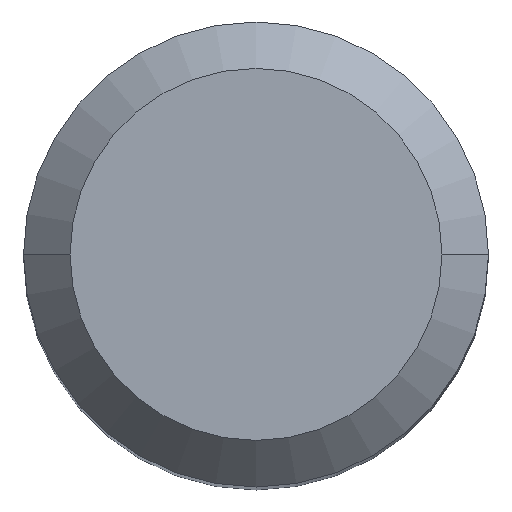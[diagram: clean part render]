
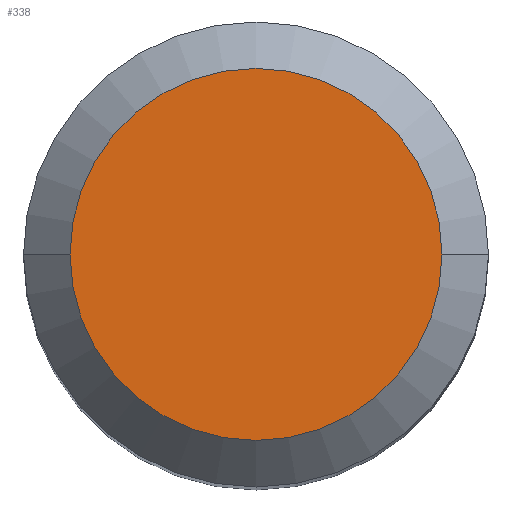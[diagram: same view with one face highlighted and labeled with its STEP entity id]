
A CAD part, top view. The second image highlights one B-rep face of the part: STEP entity #338.
In plain terms, the highlighted planar face has unit normal (0, 0, 1).
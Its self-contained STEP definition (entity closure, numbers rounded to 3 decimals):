
#13 = AXIS2_PLACEMENT_3D ( 'NONE', #127, #77, #509 ) ;
#62 = CARTESIAN_POINT ( 'NONE',  ( -4.8, 0., 0. ) ) ;
#77 = DIRECTION ( 'NONE',  ( 0., 0., -1. ) ) ;
#94 = EDGE_LOOP ( 'NONE', ( #216, #99 ) ) ;
#99 = ORIENTED_EDGE ( 'NONE', *, *, #520, .F. ) ;
#111 = DIRECTION ( 'NONE',  ( -1., 0., 0. ) ) ;
#127 = CARTESIAN_POINT ( 'NONE',  ( 0., 0., 0. ) ) ;
#147 = VERTEX_POINT ( 'NONE', #330 ) ;
#177 = EDGE_CURVE ( 'NONE', #502, #147, #289, .T. ) ;
#193 = FACE_OUTER_BOUND ( 'NONE', #94, .T. ) ;
#213 = CARTESIAN_POINT ( 'NONE',  ( 0., 0., 0. ) ) ;
#215 = DIRECTION ( 'NONE',  ( 0., 0., -1. ) ) ;
#216 = ORIENTED_EDGE ( 'NONE', *, *, #177, .F. ) ;
#238 = AXIS2_PLACEMENT_3D ( 'NONE', #426, #387, #390 ) ;
#289 = CIRCLE ( 'NONE', #13, 4.8 ) ;
#330 = CARTESIAN_POINT ( 'NONE',  ( 4.8, 0., 0. ) ) ;
#335 = PLANE ( 'NONE',  #238 ) ;
#338 = ADVANCED_FACE ( 'NONE', ( #193 ), #335, .T. ) ;
#387 = DIRECTION ( 'NONE',  ( 0., 0., 1. ) ) ;
#390 = DIRECTION ( 'NONE',  ( 1., 0., 0. ) ) ;
#426 = CARTESIAN_POINT ( 'NONE',  ( 0., 4.8, 0. ) ) ;
#450 = CIRCLE ( 'NONE', #483, 4.8 ) ;
#483 = AXIS2_PLACEMENT_3D ( 'NONE', #213, #215, #111 ) ;
#502 = VERTEX_POINT ( 'NONE', #62 ) ;
#509 = DIRECTION ( 'NONE',  ( -1., 0., 0. ) ) ;
#520 = EDGE_CURVE ( 'NONE', #147, #502, #450, .T. ) ;
